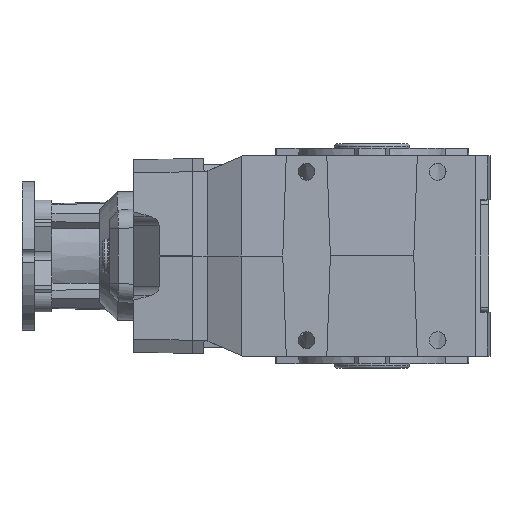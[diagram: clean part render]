
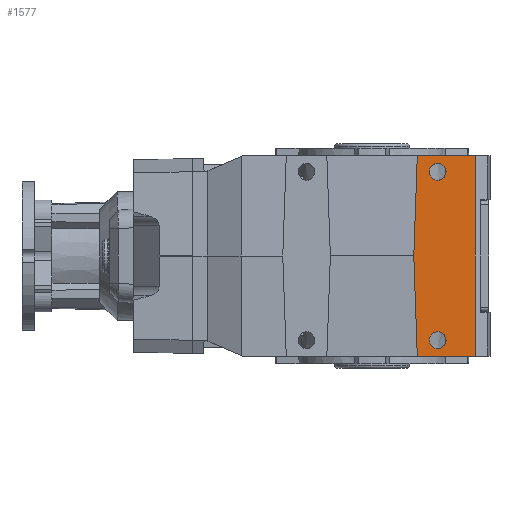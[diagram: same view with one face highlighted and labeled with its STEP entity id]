
A CAD part, front view. The second image highlights one B-rep face of the part: STEP entity #1577.
In plain terms, the highlighted planar face has unit normal (0, -1, 0).
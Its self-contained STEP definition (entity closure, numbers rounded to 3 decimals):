
#1577 = ADVANCED_FACE( '', ( #3963, #3964, #3965 ), #3966, .T. );
#3963 = FACE_OUTER_BOUND( '', #7300, .T. );
#3964 = FACE_BOUND( '', #7301, .T. );
#3965 = FACE_BOUND( '', #7302, .T. );
#3966 = PLANE( '', #7303 );
#7300 = EDGE_LOOP( '', ( #12206, #12207, #12208, #12209, #12210 ) );
#7301 = EDGE_LOOP( '', ( #12211 ) );
#7302 = EDGE_LOOP( '', ( #12212 ) );
#7303 = AXIS2_PLACEMENT_3D( '', #12213, #12214, #12215 );
#12206 = ORIENTED_EDGE( '', *, *, #20475, .F. );
#12207 = ORIENTED_EDGE( '', *, *, #20476, .T. );
#12208 = ORIENTED_EDGE( '', *, *, #20423, .T. );
#12209 = ORIENTED_EDGE( '', *, *, #20473, .T. );
#12210 = ORIENTED_EDGE( '', *, *, #20477, .T. );
#12211 = ORIENTED_EDGE( '', *, *, #20478, .T. );
#12212 = ORIENTED_EDGE( '', *, *, #20479, .T. );
#12213 = CARTESIAN_POINT( '', ( 65., -63., -55. ) );
#12214 = DIRECTION( '', ( 0., -1., 0. ) );
#12215 = DIRECTION( '', ( -1., 0., 0. ) );
#20423 = EDGE_CURVE( '', #24770, #24768, #24771, .T. );
#20473 = EDGE_CURVE( '', #24768, #24848, #24850, .T. );
#20475 = EDGE_CURVE( '', #24852, #24853, #24854, .F. );
#20476 = EDGE_CURVE( '', #24852, #24770, #24855, .F. );
#20477 = EDGE_CURVE( '', #24848, #24853, #24856, .T. );
#20478 = EDGE_CURVE( '', #24857, #24857, #24858, .F. );
#20479 = EDGE_CURVE( '', #24859, #24859, #24860, .F. );
#24768 = VERTEX_POINT( '', #31259 );
#24770 = VERTEX_POINT( '', #31262 );
#24771 = LINE( '', #31263, #31264 );
#24848 = VERTEX_POINT( '', #31367 );
#24850 = LINE( '', #31370, #31371 );
#24852 = VERTEX_POINT( '', #31373 );
#24853 = VERTEX_POINT( '', #31374 );
#24854 = LINE( '', #31375, #31376 );
#24855 = LINE( '', #31377, #31378 );
#24856 = LINE( '', #31379, #31380 );
#24857 = VERTEX_POINT( '', #31381 );
#24858 = CIRCLE( '', #31382, 4.5 );
#24859 = VERTEX_POINT( '', #31383 );
#24860 = CIRCLE( '', #31384, 4.5 );
#31259 = CARTESIAN_POINT( '', ( 24.168, -63., 53.5 ) );
#31262 = CARTESIAN_POINT( '', ( 55.031, -63., 53.5 ) );
#31263 = CARTESIAN_POINT( '', ( 65., -63., 53.5 ) );
#31264 = VECTOR( '', #37348, 1000. );
#31367 = CARTESIAN_POINT( '', ( 22.3, -63., 0. ) );
#31370 = CARTESIAN_POINT( '', ( 24.168, -63., 53.5 ) );
#31371 = VECTOR( '', #37403, 1000. );
#31373 = CARTESIAN_POINT( '', ( 55.031, -63., -53.5 ) );
#31374 = CARTESIAN_POINT( '', ( 24.168, -63., -53.5 ) );
#31375 = CARTESIAN_POINT( '', ( -97., -63., -53.5 ) );
#31376 = VECTOR( '', #37404, 1000. );
#31377 = CARTESIAN_POINT( '', ( 55.031, -63., -55. ) );
#31378 = VECTOR( '', #37405, 1000. );
#31379 = CARTESIAN_POINT( '', ( 22.3, -63., 0. ) );
#31380 = VECTOR( '', #37406, 1000. );
#31381 = CARTESIAN_POINT( '', ( 35., -63., -49.5 ) );
#31382 = AXIS2_PLACEMENT_3D( '', #37407, #37408, #37409 );
#31383 = CARTESIAN_POINT( '', ( 35., -63., 40.5 ) );
#31384 = AXIS2_PLACEMENT_3D( '', #37410, #37411, #37412 );
#37348 = DIRECTION( '', ( -1., 0., 0. ) );
#37403 = DIRECTION( '', ( -0.035, 0., -0.999 ) );
#37404 = DIRECTION( '', ( 1., 0., 0. ) );
#37405 = DIRECTION( '', ( 0., 0., -1. ) );
#37406 = DIRECTION( '', ( 0.035, 0., -0.999 ) );
#37407 = CARTESIAN_POINT( '', ( 35., -63., -45. ) );
#37408 = DIRECTION( '', ( 0., -1., 0. ) );
#37409 = DIRECTION( '', ( 0., 0., -1. ) );
#37410 = CARTESIAN_POINT( '', ( 35., -63., 45. ) );
#37411 = DIRECTION( '', ( 0., -1., 0. ) );
#37412 = DIRECTION( '', ( 0., 0., -1. ) );
